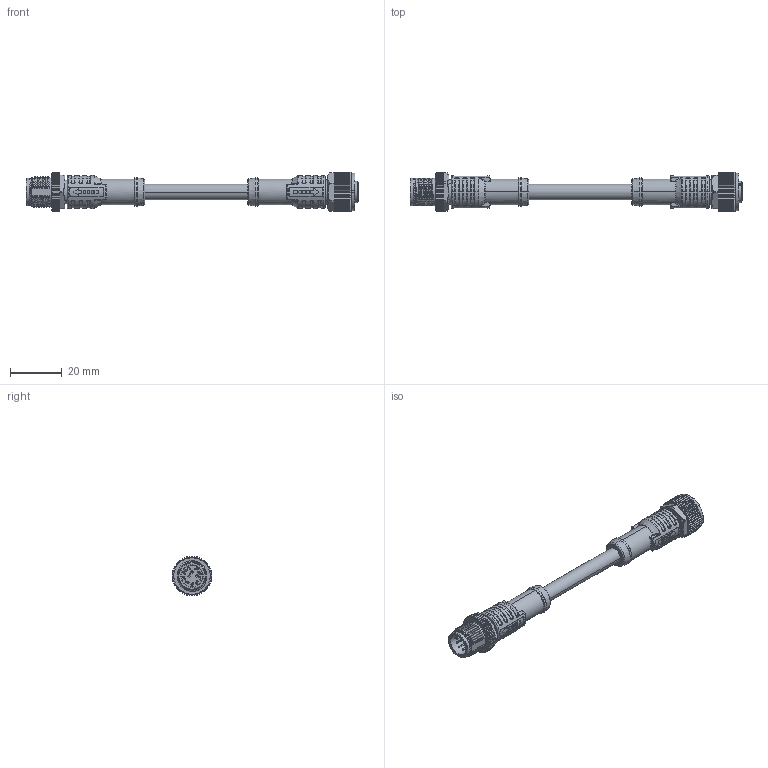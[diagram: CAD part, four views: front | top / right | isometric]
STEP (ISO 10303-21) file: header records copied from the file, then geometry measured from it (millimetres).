
FILE_DESCRIPTION((''),'2;1');
FILE_NAME('M12A10ML-12AFL-SBXXX','2021-10-13T',('L210039'),(''),'PRO/ENGINEER BY PARAMETRIC TECHNOLOGY CORPORATION, 2017170','PRO/ENGINEER BY PARAMETRIC TECHNOLOGY CORPORATION, 2017170','');
FILE_SCHEMA(('CONFIG_CONTROL_DESIGN'));
Products named in the file (1): M12A10ML-12AFL-SBXXX
Bounding box: 128.7 x 15.5 x 15.3 mm (x, y, z)
Volume: 9960.5 mm3; surface area: 7301.8 mm2
Topology: 2 solids, 2 shells, 1894 faces, 4886 edges, 3088 vertices
Faces by surface type: plane 706, cylinder 384, bspline 312, extrusion 266, torus 116, cone 56, sphere 54
Entity records: 97905 total; most frequent: CARTESIAN_POINT 54384, ORIENTED_EDGE 9732, DIRECTION 7837, EDGE_CURVE 4866, VERTEX_POINT 3088, AXIS2_PLACEMENT_3D 2637, VECTOR 2563, LINE 2297
